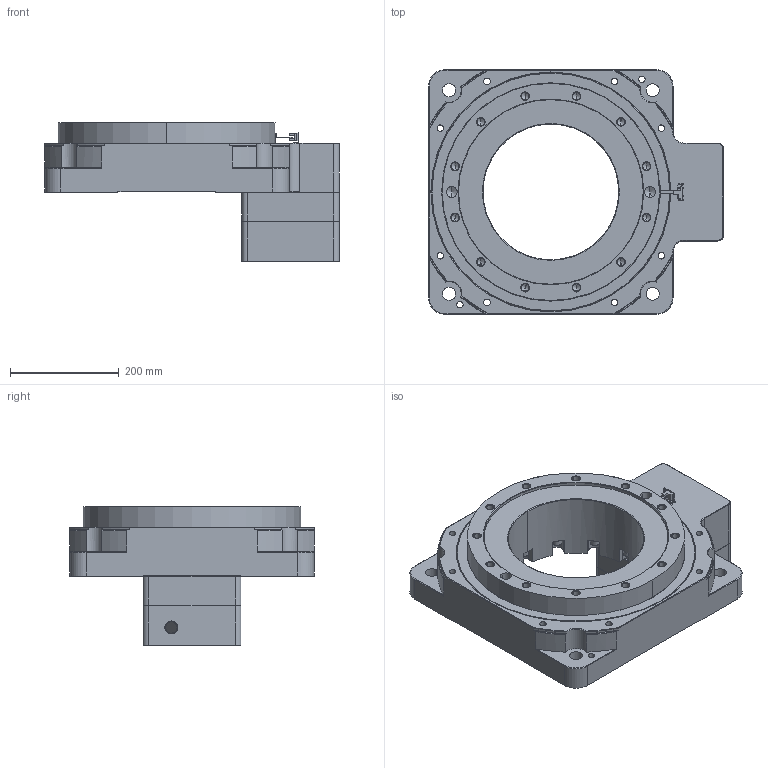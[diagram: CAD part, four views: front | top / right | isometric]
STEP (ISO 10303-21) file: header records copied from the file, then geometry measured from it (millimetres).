
FILE_DESCRIPTION (( 'STEP AP203' ), '1' );
FILE_NAME ('NT450-10K-40-130-165.STEP', '2023-08-10T02:34:14', ( '' ), ( '' ), 'SwSTEP 2.0', 'SolidWorks 2020', '' );
FILE_SCHEMA (( 'CONFIG_CONTROL_DESIGN' ));
Length unit declared in the file: millimetre
Products named in the file (1): NT450-10K-40-130-165
Bounding box: 542.6 x 450 x 255.5 mm (x, y, z)
Surface area: 995328.5 mm2 (no closed solid volume)
Topology: 0 solids, 39 shells, 2189 faces, 5393 edges, 3272 vertices
Faces by surface type: plane 871, cone 416, cylinder 413, bspline 321, torus 168
Entity records: 75506 total; most frequent: CARTESIAN_POINT 25964, ORIENTED_EDGE 10526, DIRECTION 9679, EDGE_CURVE 5279, AXIS2_PLACEMENT_3D 3529, VERTEX_POINT 3272, LINE 2621, VECTOR 2621
